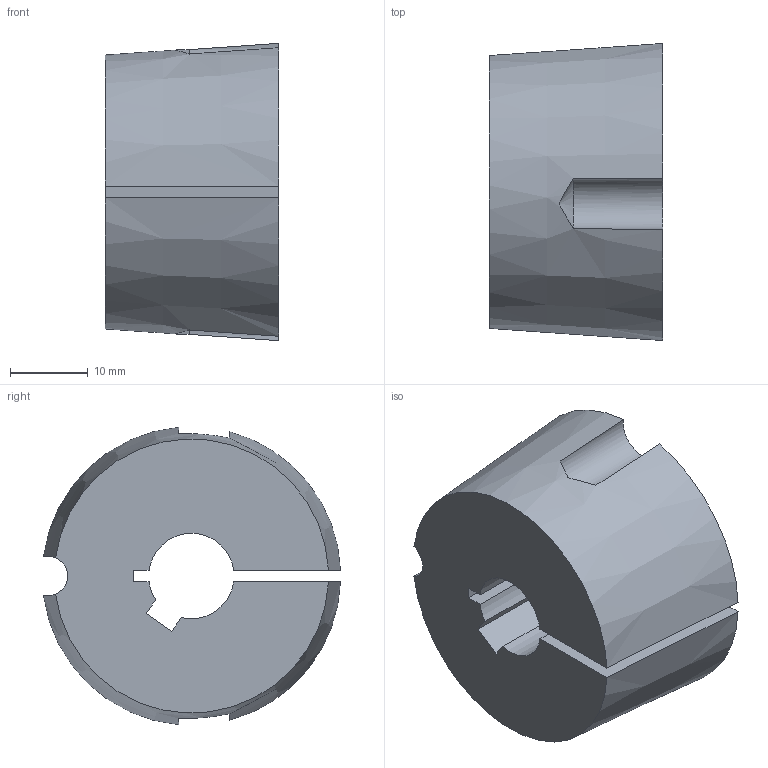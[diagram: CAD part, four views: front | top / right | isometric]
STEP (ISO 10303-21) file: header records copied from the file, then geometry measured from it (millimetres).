
FILE_DESCRIPTION( ( 'STEP AP203' ), '1' );
FILE_NAME( 'D:/export/antriebselemente/spannbuchsen_und_spannsaetze/taper-spannbuchsen_1008_bis_5050/taper-spannbuchsen_62250211Isometric_18.stp', '2018-12-11T11:10:57', ( '' ), ( '' ), ' ', 'PARTsolutions', ' ' );
FILE_SCHEMA( ( 'CONFIG_CONTROL_DESIGN' ) );
Length unit declared in the file: millimetre
Products named in the file (1): _taper-spannbuchsen_62250211
Bounding box: 22.3 x 38.22 x 38.26 mm (x, y, z)
Volume: 20339.1 mm3; surface area: 6043.6 mm2
Topology: 1 solids, 1 shells, 20 faces, 54 edges, 36 vertices
Faces by surface type: plane 10, cylinder 6, cone 4
Entity records: 736 total; most frequent: CARTESIAN_POINT 187, ORIENTED_EDGE 108, DIRECTION 104, EDGE_CURVE 54, AXIS2_PLACEMENT_3D 39, VERTEX_POINT 36, LINE 26, VECTOR 26
